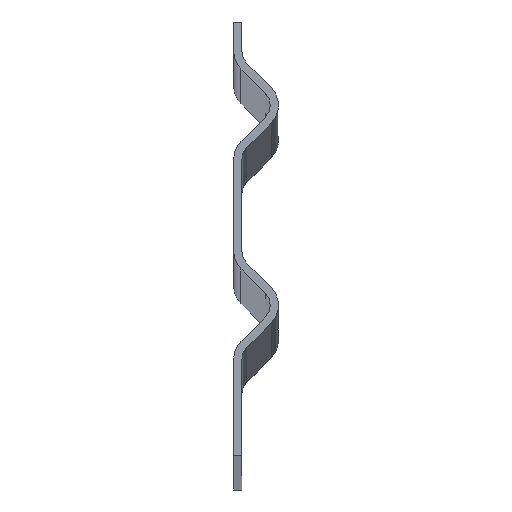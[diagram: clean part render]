
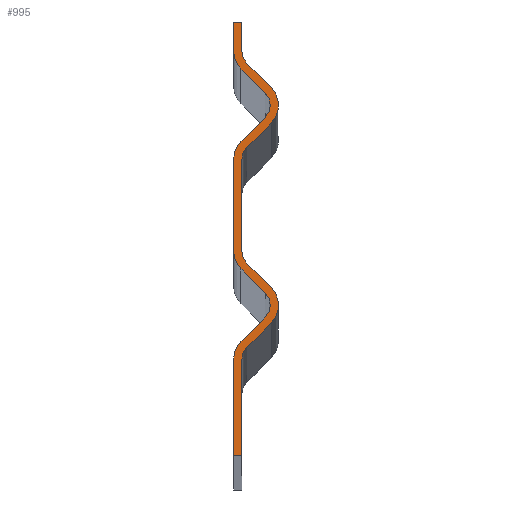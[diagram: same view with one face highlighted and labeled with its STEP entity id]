
A CAD part, top view. The second image highlights one B-rep face of the part: STEP entity #995.
In plain terms, the highlighted planar face has unit normal (0, 0, 1).
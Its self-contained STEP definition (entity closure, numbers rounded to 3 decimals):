
#73=CARTESIAN_POINT('',(0.,28.822,6000.0));
#74=VERTEX_POINT('',#73);
#75=CARTESIAN_POINT('',(2.197,34.126,6000.0));
#76=VERTEX_POINT('',#75);
#77=CARTESIAN_POINT('',(7.5,28.822,6000.0));
#78=DIRECTION('',(0.0,0.0,-1.));
#79=DIRECTION('',(0.707,-0.707,0.0));
#80=AXIS2_PLACEMENT_3D('',#77,#78,#79);
#81=CIRCLE('',#80,7.5);
#82=EDGE_CURVE('',#74,#76,#81,.T.);
#115=CARTESIAN_POINT('',(9.536,41.464,6000.0));
#116=VERTEX_POINT('',#115);
#117=CARTESIAN_POINT('',(2.197,34.126,6000.0));
#118=DIRECTION('',(0.707,0.707,0.0));
#119=VECTOR('',#118,10.379);
#120=LINE('',#117,#119);
#121=EDGE_CURVE('',#76,#116,#120,.T.);
#146=CARTESIAN_POINT('',(9.536,48.536,6000.0));
#147=VERTEX_POINT('',#146);
#148=CARTESIAN_POINT('',(6.,45.0,6000.0));
#149=DIRECTION('',(0.0,0.0,1.));
#150=DIRECTION('',(0.707,-0.707,0.0));
#151=AXIS2_PLACEMENT_3D('',#148,#149,#150);
#152=CIRCLE('',#151,5.);
#153=EDGE_CURVE('',#116,#147,#152,.T.);
#179=CARTESIAN_POINT('',(2.197,55.874,6000.0));
#180=VERTEX_POINT('',#179);
#181=CARTESIAN_POINT('',(9.536,48.536,6000.0));
#182=DIRECTION('',(-0.707,0.707,0.0));
#183=VECTOR('',#182,10.379);
#184=LINE('',#181,#183);
#185=EDGE_CURVE('',#147,#180,#184,.T.);
#210=CARTESIAN_POINT('',(0.,61.178,6000.0));
#211=VERTEX_POINT('',#210);
#212=CARTESIAN_POINT('',(7.5,61.178,6000.0));
#213=DIRECTION('',(0.0,0.0,-1.0));
#214=DIRECTION('',(1.0,0.0,0.0));
#215=AXIS2_PLACEMENT_3D('',#212,#213,#214);
#216=CIRCLE('',#215,7.5);
#217=EDGE_CURVE('',#180,#211,#216,.T.);
#243=CARTESIAN_POINT('',(0.,88.822,6000.0));
#244=VERTEX_POINT('',#243);
#245=CARTESIAN_POINT('',(0.,61.178,6000.0));
#246=DIRECTION('',(0.0,1.0,0.0));
#247=VECTOR('',#246,27.645);
#248=LINE('',#245,#247);
#249=EDGE_CURVE('',#211,#244,#248,.T.);
#274=CARTESIAN_POINT('',(2.197,94.126,6000.0));
#275=VERTEX_POINT('',#274);
#276=CARTESIAN_POINT('',(7.5,88.822,6000.0));
#277=DIRECTION('',(0.0,0.0,-1.0));
#278=DIRECTION('',(0.707,-0.707,0.0));
#279=AXIS2_PLACEMENT_3D('',#276,#277,#278);
#280=CIRCLE('',#279,7.5);
#281=EDGE_CURVE('',#244,#275,#280,.T.);
#307=CARTESIAN_POINT('',(9.536,101.464,6000.0));
#308=VERTEX_POINT('',#307);
#309=CARTESIAN_POINT('',(2.197,94.126,6000.0));
#310=DIRECTION('',(0.707,0.707,0.0));
#311=VECTOR('',#310,10.379);
#312=LINE('',#309,#311);
#313=EDGE_CURVE('',#275,#308,#312,.T.);
#338=CARTESIAN_POINT('',(9.536,108.536,6000.0));
#339=VERTEX_POINT('',#338);
#340=CARTESIAN_POINT('',(6.,105.0,6000.0));
#341=DIRECTION('',(0.0,0.0,1.0));
#342=DIRECTION('',(0.707,-0.707,0.0));
#343=AXIS2_PLACEMENT_3D('',#340,#341,#342);
#344=CIRCLE('',#343,5.0);
#345=EDGE_CURVE('',#308,#339,#344,.T.);
#371=CARTESIAN_POINT('',(2.197,115.874,6000.0));
#372=VERTEX_POINT('',#371);
#373=CARTESIAN_POINT('',(9.536,108.536,6000.0));
#374=DIRECTION('',(-0.707,0.707,0.0));
#375=VECTOR('',#374,10.379);
#376=LINE('',#373,#375);
#377=EDGE_CURVE('',#339,#372,#376,.T.);
#402=CARTESIAN_POINT('',(0.,121.178,6000.0));
#403=VERTEX_POINT('',#402);
#404=CARTESIAN_POINT('',(7.5,121.178,6000.0));
#405=DIRECTION('',(0.0,0.0,-1.0));
#406=DIRECTION('',(1.0,0.0,0.0));
#407=AXIS2_PLACEMENT_3D('',#404,#405,#406);
#408=CIRCLE('',#407,7.5);
#409=EDGE_CURVE('',#372,#403,#408,.T.);
#435=CARTESIAN_POINT('',(0.0,130.0,6000.0));
#436=VERTEX_POINT('',#435);
#437=CARTESIAN_POINT('',(0.,121.178,6000.0));
#438=DIRECTION('',(0.0,1.0,0.0));
#439=VECTOR('',#438,8.822);
#440=LINE('',#437,#439);
#441=EDGE_CURVE('',#403,#436,#440,.T.);
#466=CARTESIAN_POINT('',(2.5,130.0,6000.0));
#467=VERTEX_POINT('',#466);
#468=CARTESIAN_POINT('',(0.0,130.0,6000.0));
#469=DIRECTION('',(1.0,0.0,0.0));
#470=VECTOR('',#469,2.5);
#471=LINE('',#468,#470);
#472=EDGE_CURVE('',#436,#467,#471,.T.);
#497=CARTESIAN_POINT('',(2.5,121.178,6000.0));
#498=VERTEX_POINT('',#497);
#499=CARTESIAN_POINT('',(2.5,130.0,6000.0));
#500=DIRECTION('',(0.0,-1.0,0.0));
#501=VECTOR('',#500,8.822);
#502=LINE('',#499,#501);
#503=EDGE_CURVE('',#467,#498,#502,.T.);
#528=CARTESIAN_POINT('',(3.964,117.642,6000.0));
#529=VERTEX_POINT('',#528);
#530=CARTESIAN_POINT('',(7.5,121.178,6000.0));
#531=DIRECTION('',(0.0,0.0,1.0));
#532=DIRECTION('',(-1.0,0.0,0.0));
#533=AXIS2_PLACEMENT_3D('',#530,#531,#532);
#534=CIRCLE('',#533,5.0);
#535=EDGE_CURVE('',#498,#529,#534,.T.);
#561=CARTESIAN_POINT('',(11.303,110.303,6000.0));
#562=VERTEX_POINT('',#561);
#563=CARTESIAN_POINT('',(3.964,117.642,6000.0));
#564=DIRECTION('',(0.707,-0.707,0.0));
#565=VECTOR('',#564,10.379);
#566=LINE('',#563,#565);
#567=EDGE_CURVE('',#529,#562,#566,.T.);
#592=CARTESIAN_POINT('',(11.303,99.697,6000.0));
#593=VERTEX_POINT('',#592);
#594=CARTESIAN_POINT('',(6.,105.0,6000.0));
#595=DIRECTION('',(0.0,0.0,-1.0));
#596=DIRECTION('',(-0.707,0.707,0.0));
#597=AXIS2_PLACEMENT_3D('',#594,#595,#596);
#598=CIRCLE('',#597,7.5);
#599=EDGE_CURVE('',#562,#593,#598,.T.);
#625=CARTESIAN_POINT('',(3.964,92.358,6000.0));
#626=VERTEX_POINT('',#625);
#627=CARTESIAN_POINT('',(11.303,99.697,6000.0));
#628=DIRECTION('',(-0.707,-0.707,0.0));
#629=VECTOR('',#628,10.379);
#630=LINE('',#627,#629);
#631=EDGE_CURVE('',#593,#626,#630,.T.);
#656=CARTESIAN_POINT('',(2.5,88.822,6000.0));
#657=VERTEX_POINT('',#656);
#658=CARTESIAN_POINT('',(7.5,88.822,6000.0));
#659=DIRECTION('',(0.0,0.0,1.0));
#660=DIRECTION('',(-0.707,0.707,0.0));
#661=AXIS2_PLACEMENT_3D('',#658,#659,#660);
#662=CIRCLE('',#661,5.);
#663=EDGE_CURVE('',#626,#657,#662,.T.);
#689=CARTESIAN_POINT('',(2.5,61.178,6000.0));
#690=VERTEX_POINT('',#689);
#691=CARTESIAN_POINT('',(2.5,88.822,6000.0));
#692=DIRECTION('',(0.0,-1.0,0.0));
#693=VECTOR('',#692,27.645);
#694=LINE('',#691,#693);
#695=EDGE_CURVE('',#657,#690,#694,.T.);
#720=CARTESIAN_POINT('',(3.964,57.642,6000.0));
#721=VERTEX_POINT('',#720);
#722=CARTESIAN_POINT('',(7.5,61.178,6000.0));
#723=DIRECTION('',(0.0,0.0,1.0));
#724=DIRECTION('',(-1.0,0.0,0.0));
#725=AXIS2_PLACEMENT_3D('',#722,#723,#724);
#726=CIRCLE('',#725,5.0);
#727=EDGE_CURVE('',#690,#721,#726,.T.);
#753=CARTESIAN_POINT('',(11.303,50.303,6000.0));
#754=VERTEX_POINT('',#753);
#755=CARTESIAN_POINT('',(3.964,57.642,6000.0));
#756=DIRECTION('',(0.707,-0.707,0.0));
#757=VECTOR('',#756,10.379);
#758=LINE('',#755,#757);
#759=EDGE_CURVE('',#721,#754,#758,.T.);
#784=CARTESIAN_POINT('',(11.303,39.697,6000.0));
#785=VERTEX_POINT('',#784);
#786=CARTESIAN_POINT('',(6.,45.0,6000.0));
#787=DIRECTION('',(0.0,0.0,-1.0));
#788=DIRECTION('',(-0.707,0.707,0.0));
#789=AXIS2_PLACEMENT_3D('',#786,#787,#788);
#790=CIRCLE('',#789,7.5);
#791=EDGE_CURVE('',#754,#785,#790,.T.);
#817=CARTESIAN_POINT('',(3.964,32.358,6000.0));
#818=VERTEX_POINT('',#817);
#819=CARTESIAN_POINT('',(11.303,39.697,6000.0));
#820=DIRECTION('',(-0.707,-0.707,0.0));
#821=VECTOR('',#820,10.379);
#822=LINE('',#819,#821);
#823=EDGE_CURVE('',#785,#818,#822,.T.);
#848=CARTESIAN_POINT('',(2.5,28.822,6000.0));
#849=VERTEX_POINT('',#848);
#850=CARTESIAN_POINT('',(7.5,28.822,6000.0));
#851=DIRECTION('',(0.0,0.0,1.0));
#852=DIRECTION('',(-0.707,0.707,0.0));
#853=AXIS2_PLACEMENT_3D('',#850,#851,#852);
#854=CIRCLE('',#853,5.0);
#855=EDGE_CURVE('',#818,#849,#854,.T.);
#881=CARTESIAN_POINT('',(2.5,0.0,6000.0));
#882=VERTEX_POINT('',#881);
#883=CARTESIAN_POINT('',(2.5,28.822,6000.0));
#884=DIRECTION('',(0.0,-1.0,0.0));
#885=VECTOR('',#884,28.822);
#886=LINE('',#883,#885);
#887=EDGE_CURVE('',#849,#882,#886,.T.);
#912=CARTESIAN_POINT('',(0.0,0.0,6000.0));
#913=VERTEX_POINT('',#912);
#914=CARTESIAN_POINT('',(2.5,0.0,6000.0));
#915=DIRECTION('',(-1.0,0.0,0.0));
#916=VECTOR('',#915,2.5);
#917=LINE('',#914,#916);
#918=EDGE_CURVE('',#882,#913,#917,.T.);
#943=CARTESIAN_POINT('',(0.0,0.0,6000.0));
#944=DIRECTION('',(0.0,1.0,0.0));
#945=VECTOR('',#944,28.822);
#946=LINE('',#943,#945);
#947=EDGE_CURVE('',#913,#74,#946,.T.);
#960=CARTESIAN_POINT('',(4.228,66.082,6000.0));
#961=DIRECTION('',(0.0,0.0,1.0));
#962=DIRECTION('',(1.0,0.0,0.0));
#963=AXIS2_PLACEMENT_3D('',#960,#961,#962);
#964=PLANE('',#963);
#965=ORIENTED_EDGE('',*,*,#82,.F.);
#966=ORIENTED_EDGE('',*,*,#947,.F.);
#967=ORIENTED_EDGE('',*,*,#918,.F.);
#968=ORIENTED_EDGE('',*,*,#887,.F.);
#969=ORIENTED_EDGE('',*,*,#855,.F.);
#970=ORIENTED_EDGE('',*,*,#823,.F.);
#971=ORIENTED_EDGE('',*,*,#791,.F.);
#972=ORIENTED_EDGE('',*,*,#759,.F.);
#973=ORIENTED_EDGE('',*,*,#727,.F.);
#974=ORIENTED_EDGE('',*,*,#695,.F.);
#975=ORIENTED_EDGE('',*,*,#663,.F.);
#976=ORIENTED_EDGE('',*,*,#631,.F.);
#977=ORIENTED_EDGE('',*,*,#599,.F.);
#978=ORIENTED_EDGE('',*,*,#567,.F.);
#979=ORIENTED_EDGE('',*,*,#535,.F.);
#980=ORIENTED_EDGE('',*,*,#503,.F.);
#981=ORIENTED_EDGE('',*,*,#472,.F.);
#982=ORIENTED_EDGE('',*,*,#441,.F.);
#983=ORIENTED_EDGE('',*,*,#409,.F.);
#984=ORIENTED_EDGE('',*,*,#377,.F.);
#985=ORIENTED_EDGE('',*,*,#345,.F.);
#986=ORIENTED_EDGE('',*,*,#313,.F.);
#987=ORIENTED_EDGE('',*,*,#281,.F.);
#988=ORIENTED_EDGE('',*,*,#249,.F.);
#989=ORIENTED_EDGE('',*,*,#217,.F.);
#990=ORIENTED_EDGE('',*,*,#185,.F.);
#991=ORIENTED_EDGE('',*,*,#153,.F.);
#992=ORIENTED_EDGE('',*,*,#121,.F.);
#993=EDGE_LOOP('',(#965,#966,#967,#968,#969,#970,#971,#972,#973,#974,#975,#976,#977,#978,#979,#980,#981,#982,#983,#984,#985,#986,#987,#988,#989,#990,#991,#992));
#994=FACE_OUTER_BOUND('',#993,.T.);
#995=ADVANCED_FACE('',(#994),#964,.T.);
